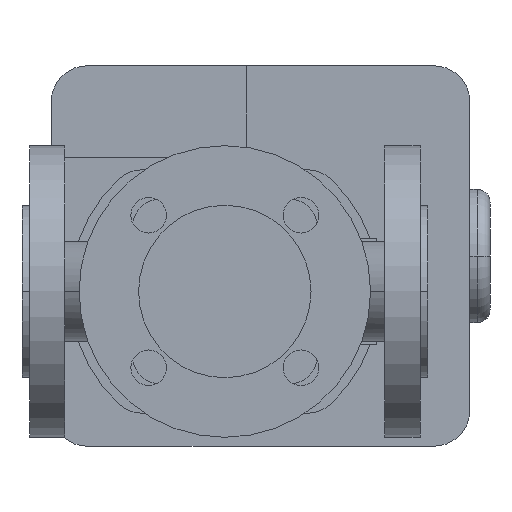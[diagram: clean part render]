
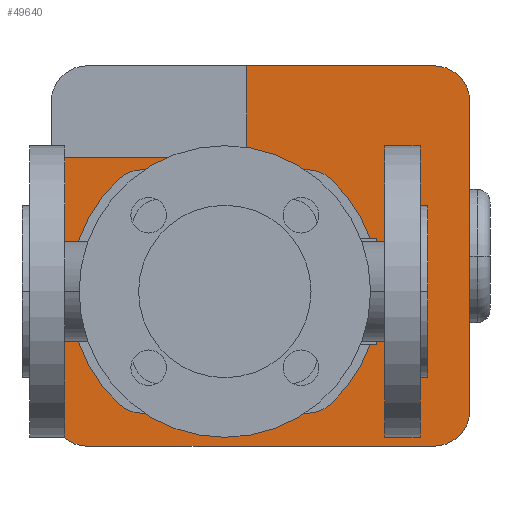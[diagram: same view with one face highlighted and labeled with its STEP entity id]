
A CAD part, front view. The second image highlights one B-rep face of the part: STEP entity #49640.
In plain terms, the highlighted planar face has unit normal (0, -1, 0).
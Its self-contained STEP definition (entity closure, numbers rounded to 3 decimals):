
#38530=CARTESIAN_POINT('',(139.96,317.,11.216));
#38540=VERTEX_POINT('',#38530);
#38570=CARTESIAN_POINT('',(130.,317.,0.));
#38580=DIRECTION('',(0.,1.,0.));
#38590=DIRECTION('',(0.,0.,1.));
#38600=AXIS2_PLACEMENT_3D('',#38570,#38580,#38590);
#38610=CIRCLE('',#38600,15.);
#38620=CARTESIAN_POINT('',(139.96,317.,-11.216));
#38630=VERTEX_POINT('',#38620);
#38640=EDGE_CURVE('',#38540,#38630,#38610,.T.);
#41360=CARTESIAN_POINT('',(122.116,317.,44.128));
#41370=VERTEX_POINT('',#41360);
#41400=CARTESIAN_POINT('',(80.,317.,0.));
#41410=DIRECTION('',(0.,1.,0.));
#41420=DIRECTION('',(0.69,0.,0.723));
#41430=AXIS2_PLACEMENT_3D('',#41400,#41410,#41420);
#41440=CIRCLE('',#41430,61.);
#41450=EDGE_CURVE('',#41370,#38540,#41440,.T.);
#41840=CARTESIAN_POINT('',(20.04,317.,-11.216));
#41850=VERTEX_POINT('',#41840);
#41880=CARTESIAN_POINT('',(30.,317.,0.));
#41890=DIRECTION('',(0.,1.,0.));
#41900=DIRECTION('',(0.,0.,-1.));
#41910=AXIS2_PLACEMENT_3D('',#41880,#41890,#41900);
#41920=CIRCLE('',#41910,15.);
#41930=CARTESIAN_POINT('',(20.04,317.,11.216));
#41940=VERTEX_POINT('',#41930);
#41950=EDGE_CURVE('',#41850,#41940,#41920,.T.);
#42940=CARTESIAN_POINT('',(37.884,317.,-44.128));
#42950=VERTEX_POINT('',#42940);
#42980=CARTESIAN_POINT('',(80.,317.,0.));
#42990=DIRECTION('',(0.,1.,0.));
#43000=DIRECTION('',(-0.69,0.,-0.723));
#43010=AXIS2_PLACEMENT_3D('',#42980,#42990,#43000);
#43020=CIRCLE('',#43010,61.);
#43030=EDGE_CURVE('',#42950,#41850,#43020,.T.);
#45340=CARTESIAN_POINT('',(162.6,317.,-61.));
#45350=VERTEX_POINT('',#45340);
#45400=CARTESIAN_POINT('',(162.6,317.,-47.));
#45410=DIRECTION('',(0.,1.,0.));
#45420=DIRECTION('',(1.,0.,0.));
#45430=AXIS2_PLACEMENT_3D('',#45400,#45410,#45420);
#45440=CIRCLE('',#45430,14.);
#45450=CARTESIAN_POINT('',(176.6,317.,-47.));
#45460=VERTEX_POINT('',#45450);
#45470=EDGE_CURVE('',#45460,#45350,#45440,.T.);
#48200=CARTESIAN_POINT('',(80.,317.,0.));
#48210=DIRECTION('',(0.,1.,0.));
#48220=DIRECTION('',(0.,0.,1.));
#48230=AXIS2_PLACEMENT_3D('',#48200,#48210,#48220);
#48240=PLANE('',#48230);
#48250=ORIENTED_EDGE('',*,*,#41450,.T.);
#48260=CARTESIAN_POINT('',(112.45,317.,34.));
#48270=DIRECTION('',(0.,1.,0.));
#48280=DIRECTION('',(0.,0.,1.));
#48290=AXIS2_PLACEMENT_3D('',#48260,#48270,#48280);
#48300=CIRCLE('',#48290,14.);
#48310=CARTESIAN_POINT('',(112.45,317.,48.));
#48320=VERTEX_POINT('',#48310);
#48330=EDGE_CURVE('',#48320,#41370,#48300,.T.);
#48340=ORIENTED_EDGE('',*,*,#48330,.T.);
#48350=CARTESIAN_POINT('',(63.775,317.,48.));
#48360=DIRECTION('',(1.,0.,0.));
#48370=VECTOR('',#48360,1.);
#48380=LINE('',#48350,#48370);
#48390=CARTESIAN_POINT('',(47.55,317.,48.));
#48400=VERTEX_POINT('',#48390);
#48410=EDGE_CURVE('',#48400,#48320,#48380,.T.);
#48420=ORIENTED_EDGE('',*,*,#48410,.T.);
#48430=CARTESIAN_POINT('',(47.55,317.,34.));
#48440=DIRECTION('',(0.,1.,0.));
#48450=DIRECTION('',(-0.69,0.,0.723));
#48460=AXIS2_PLACEMENT_3D('',#48430,#48440,#48450);
#48470=CIRCLE('',#48460,14.);
#48480=CARTESIAN_POINT('',(37.884,317.,44.128));
#48490=VERTEX_POINT('',#48480);
#48500=EDGE_CURVE('',#48490,#48400,#48470,.T.);
#48510=ORIENTED_EDGE('',*,*,#48500,.T.);
#48520=CARTESIAN_POINT('',(80.,317.,0.));
#48530=DIRECTION('',(0.,1.,0.));
#48540=DIRECTION('',(-0.69,0.,-0.723));
#48550=AXIS2_PLACEMENT_3D('',#48520,#48530,#48540);
#48560=CIRCLE('',#48550,61.);
#48570=EDGE_CURVE('',#41940,#48490,#48560,.T.);
#48580=ORIENTED_EDGE('',*,*,#48570,.T.);
#48590=ORIENTED_EDGE('',*,*,#41950,.T.);
#48600=ORIENTED_EDGE('',*,*,#43030,.T.);
#48610=CARTESIAN_POINT('',(47.55,317.,-34.));
#48620=DIRECTION('',(0.,1.,0.));
#48630=DIRECTION('',(0.,0.,-1.));
#48640=AXIS2_PLACEMENT_3D('',#48610,#48620,#48630);
#48650=CIRCLE('',#48640,14.);
#48660=CARTESIAN_POINT('',(47.55,317.,-48.));
#48670=VERTEX_POINT('',#48660);
#48680=EDGE_CURVE('',#48670,#42950,#48650,.T.);
#48690=ORIENTED_EDGE('',*,*,#48680,.T.);
#48700=CARTESIAN_POINT('',(96.225,317.,-48.));
#48710=DIRECTION('',(-1.,0.,0.));
#48720=VECTOR('',#48710,1.);
#48730=LINE('',#48700,#48720);
#48740=CARTESIAN_POINT('',(112.45,317.,-48.));
#48750=VERTEX_POINT('',#48740);
#48760=EDGE_CURVE('',#48750,#48670,#48730,.T.);
#48770=ORIENTED_EDGE('',*,*,#48760,.T.);
#48780=CARTESIAN_POINT('',(112.45,317.,-34.));
#48790=DIRECTION('',(0.,1.,0.));
#48800=DIRECTION('',(0.69,0.,-0.723));
#48810=AXIS2_PLACEMENT_3D('',#48780,#48790,#48800);
#48820=CIRCLE('',#48810,14.);
#48830=CARTESIAN_POINT('',(122.116,317.,-44.128));
#48840=VERTEX_POINT('',#48830);
#48850=EDGE_CURVE('',#48840,#48750,#48820,.T.);
#48860=ORIENTED_EDGE('',*,*,#48850,.T.);
#48870=CARTESIAN_POINT('',(80.,317.,0.));
#48880=DIRECTION('',(0.,1.,0.));
#48890=DIRECTION('',(0.69,0.,0.723));
#48900=AXIS2_PLACEMENT_3D('',#48870,#48880,#48890);
#48910=CIRCLE('',#48900,61.);
#48920=EDGE_CURVE('',#38630,#48840,#48910,.T.);
#48930=ORIENTED_EDGE('',*,*,#48920,.T.);
#48940=ORIENTED_EDGE('',*,*,#38640,.T.);
#48950=EDGE_LOOP('',(#48940,#48930,#48860,#48770,#48690,#48600,#48590,
#48580,#48510,#48420,#48340,#48250));
#48960=FACE_BOUND('',#48950,.T.);
#48970=CARTESIAN_POINT('',(88.6,317.,26.5));
#48980=DIRECTION('',(0.,0.,-1.));
#48990=VECTOR('',#48980,1.);
#49000=LINE('',#48970,#48990);
#49010=CARTESIAN_POINT('',(88.6,317.,89.));
#49020=VERTEX_POINT('',#49010);
#49030=CARTESIAN_POINT('',(88.6,317.,53.));
#49040=VERTEX_POINT('',#49030);
#49050=EDGE_CURVE('',#49020,#49040,#49000,.T.);
#49060=ORIENTED_EDGE('',*,*,#49050,.T.);
#49070=CARTESIAN_POINT('',(25.6,317.,89.));
#49080=DIRECTION('',(1.,0.,0.));
#49090=VECTOR('',#49080,1.);
#49100=LINE('',#49070,#49090);
#49110=CARTESIAN_POINT('',(162.6,317.,89.));
#49120=VERTEX_POINT('',#49110);
#49130=EDGE_CURVE('',#49020,#49120,#49100,.T.);
#49140=ORIENTED_EDGE('',*,*,#49130,.F.);
#49150=CARTESIAN_POINT('',(162.6,317.,75.));
#49160=DIRECTION('',(0.,1.,0.));
#49170=DIRECTION('',(0.,0.,1.));
#49180=AXIS2_PLACEMENT_3D('',#49150,#49160,#49170);
#49190=CIRCLE('',#49180,14.);
#49200=CARTESIAN_POINT('',(176.6,317.,75.));
#49210=VERTEX_POINT('',#49200);
#49220=EDGE_CURVE('',#49120,#49210,#49190,.T.);
#49230=ORIENTED_EDGE('',*,*,#49220,.F.);
#49240=CARTESIAN_POINT('',(176.6,317.,75.));
#49250=DIRECTION('',(0.,0.,-1.));
#49260=VECTOR('',#49250,1.);
#49270=LINE('',#49240,#49260);
#49280=EDGE_CURVE('',#49210,#45460,#49270,.T.);
#49290=ORIENTED_EDGE('',*,*,#49280,.F.);
#49300=ORIENTED_EDGE('',*,*,#45470,.F.);
#49310=CARTESIAN_POINT('',(162.6,317.,-61.));
#49320=DIRECTION('',(-1.,0.,0.));
#49330=VECTOR('',#49320,1.);
#49340=LINE('',#49310,#49330);
#49350=CARTESIAN_POINT('',(25.6,317.,-61.));
#49360=VERTEX_POINT('',#49350);
#49370=EDGE_CURVE('',#45350,#49360,#49340,.T.);
#49380=ORIENTED_EDGE('',*,*,#49370,.F.);
#49390=CARTESIAN_POINT('',(25.6,317.,-47.));
#49400=DIRECTION('',(0.,1.,0.));
#49410=DIRECTION('',(0.,0.,-1.));
#49420=AXIS2_PLACEMENT_3D('',#49390,#49400,#49410);
#49430=CIRCLE('',#49420,14.);
#49440=CARTESIAN_POINT('',(11.6,317.,-47.));
#49450=VERTEX_POINT('',#49440);
#49460=EDGE_CURVE('',#49360,#49450,#49430,.T.);
#49470=ORIENTED_EDGE('',*,*,#49460,.F.);
#49480=CARTESIAN_POINT('',(11.6,317.,-47.));
#49490=DIRECTION('',(0.,0.,1.));
#49500=VECTOR('',#49490,1.);
#49510=LINE('',#49480,#49500);
#49520=CARTESIAN_POINT('',(11.6,317.,53.));
#49530=VERTEX_POINT('',#49520);
#49540=EDGE_CURVE('',#49450,#49530,#49510,.T.);
#49550=ORIENTED_EDGE('',*,*,#49540,.F.);
#49560=CARTESIAN_POINT('',(45.3,317.,53.));
#49570=DIRECTION('',(-1.,0.,0.));
#49580=VECTOR('',#49570,1.);
#49590=LINE('',#49560,#49580);
#49600=EDGE_CURVE('',#49040,#49530,#49590,.T.);
#49610=ORIENTED_EDGE('',*,*,#49600,.T.);
#49620=EDGE_LOOP('',(#49610,#49550,#49470,#49380,#49300,#49290,#49230,
#49140,#49060));
#49630=FACE_OUTER_BOUND('',#49620,.T.);
#49640=ADVANCED_FACE('',(#48960,#49630),#48240,.F.);
